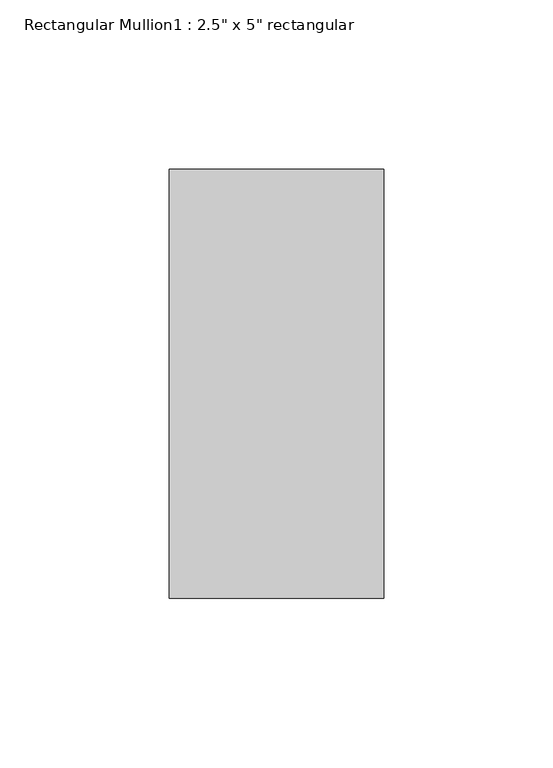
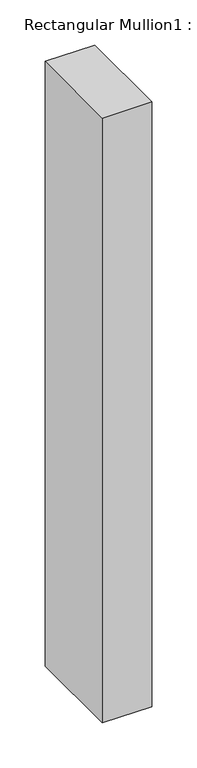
"""IFC4 building model written with IfcOpenShell, lengths in millimetres: member geometry."""

from ifc_helpers import new_model, si_unit, frame, origin, place, context, project, spatial, polyline, outline, extrude, source, transform, mapped, element, save


def member_ad567e07(model_context):
    return source(origin(), model_context, "Body", "SweptSolid", [
        extrude(outline(polyline([(31.75, 63.5), (31.75, -63.5), (-31.75, -63.5), (-31.75, 63.5), (31.75, 63.5)])), frame((0.0, 0.0, -819.15), z_axis=(0.0, 0.0, 1.0), x_axis=(1.0, 0.0, 0.0)), (0.0, 0.0, 1.0), 819.15),
    ])


if __name__ == "__main__":
    model = new_model("IFC4")
    model_context = context("Model", 3, world=origin())
    ifc_project = project(units=[si_unit("LENGTHUNIT", "METRE", prefix="MILLI")], contexts=[model_context])
    site = spatial("IfcSite", under=ifc_project)
    building = spatial("IfcBuilding", under=site)
    placement = place(None, origin())
    member_shape = member_ad567e07(model_context)
    element("IfcMember", 1, ObjectType="Rectangular Mullion1 : 2.5\" x 5\" rectangular", at=placement, inside=building, context=model_context, shape_type="MappedRepresentation", body=[
        mapped(member_shape, transform((0.0, 0.0, 0.0), x_axis=(1.0, 0.0, 0.0), y_axis=(0.0, 1.0, 0.0), z_axis=(0.0, 0.0, 1.0))),
    ])
    save(model, "model.ifc")
